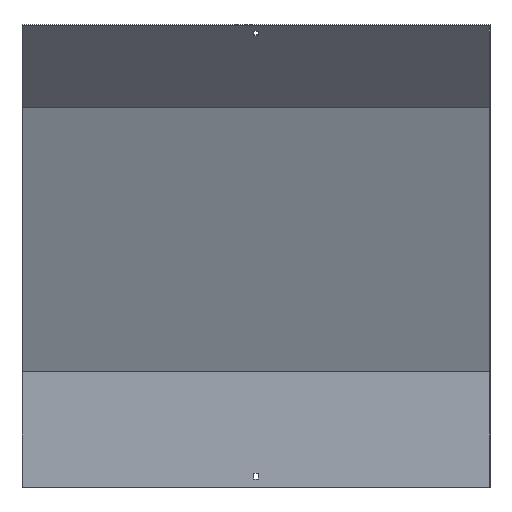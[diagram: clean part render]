
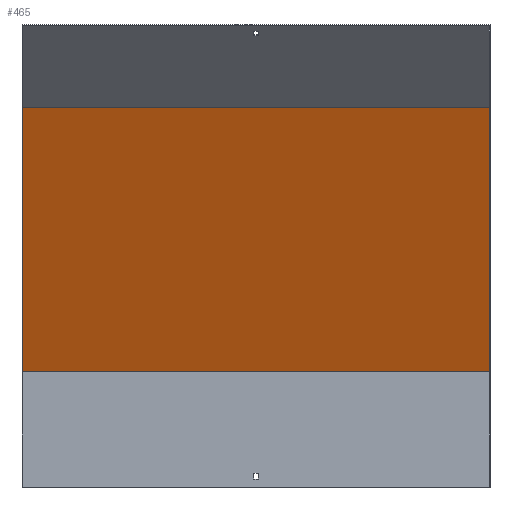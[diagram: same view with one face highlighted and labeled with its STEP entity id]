
A CAD part, front view. The second image highlights one B-rep face of the part: STEP entity #465.
In plain terms, the highlighted planar face has unit normal (0, -0.924, -0.383).
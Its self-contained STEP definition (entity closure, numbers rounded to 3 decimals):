
#8 = DIRECTION ( 'NONE',  ( 0., -0.383, 0.924 ) ) ;
#50 = LINE ( 'NONE', #448, #138 ) ;
#61 = VERTEX_POINT ( 'NONE', #446 ) ;
#67 = EDGE_CURVE ( 'NONE', #336, #322, #393, .T. ) ;
#71 = FACE_OUTER_BOUND ( 'NONE', #548, .T. ) ;
#128 = CARTESIAN_POINT ( 'NONE',  ( -350., 18.5, 173.68 ) ) ;
#138 = VECTOR ( 'NONE', #767, 1000. ) ;
#142 = PLANE ( 'NONE',  #321 ) ;
#197 = VECTOR ( 'NONE', #313, 1000. ) ;
#259 = CARTESIAN_POINT ( 'NONE',  ( -350., -145.809, 570.357 ) ) ;
#294 = DIRECTION ( 'NONE',  ( 0., -0.383, 0.924 ) ) ;
#313 = DIRECTION ( 'NONE',  ( -1., 0., 0. ) ) ;
#321 = AXIS2_PLACEMENT_3D ( 'NONE', #335, #801, #799 ) ;
#322 = VERTEX_POINT ( 'NONE', #128 ) ;
#335 = CARTESIAN_POINT ( 'NONE',  ( 351.5, 17.092, 177.08 ) ) ;
#336 = VERTEX_POINT ( 'NONE', #849 ) ;
#363 = CARTESIAN_POINT ( 'NONE',  ( 350., 77.196, 31.976 ) ) ;
#393 = LINE ( 'NONE', #650, #197 ) ;
#426 = ORIENTED_EDGE ( 'NONE', *, *, #583, .T. ) ;
#446 = CARTESIAN_POINT ( 'NONE',  ( 350., -145.809, 570.357 ) ) ;
#448 = CARTESIAN_POINT ( 'NONE',  ( 351.5, -145.809, 570.357 ) ) ;
#462 = LINE ( 'NONE', #728, #507 ) ;
#465 = ADVANCED_FACE ( 'NONE', ( #71 ), #142, .T. ) ;
#487 = LINE ( 'NONE', #363, #709 ) ;
#507 = VECTOR ( 'NONE', #8, 1000. ) ;
#548 = EDGE_LOOP ( 'NONE', ( #621, #829, #426, #626 ) ) ;
#583 = EDGE_CURVE ( 'NONE', #336, #61, #487, .T. ) ;
#621 = ORIENTED_EDGE ( 'NONE', *, *, #830, .F. ) ;
#626 = ORIENTED_EDGE ( 'NONE', *, *, #741, .T. ) ;
#650 = CARTESIAN_POINT ( 'NONE',  ( 351.5, 18.5, 173.68 ) ) ;
#709 = VECTOR ( 'NONE', #294, 1000. ) ;
#728 = CARTESIAN_POINT ( 'NONE',  ( -350., 77.196, 31.976 ) ) ;
#741 = EDGE_CURVE ( 'NONE', #61, #821, #50, .T. ) ;
#767 = DIRECTION ( 'NONE',  ( -1., 0., 0. ) ) ;
#799 = DIRECTION ( 'NONE',  ( 0., 0.383, -0.924 ) ) ;
#801 = DIRECTION ( 'NONE',  ( 0., -0.924, -0.383 ) ) ;
#821 = VERTEX_POINT ( 'NONE', #259 ) ;
#829 = ORIENTED_EDGE ( 'NONE', *, *, #67, .F. ) ;
#830 = EDGE_CURVE ( 'NONE', #322, #821, #462, .T. ) ;
#849 = CARTESIAN_POINT ( 'NONE',  ( 350., 18.5, 173.68 ) ) ;
